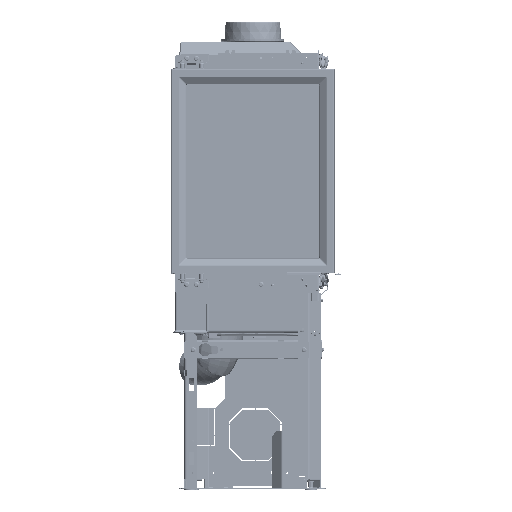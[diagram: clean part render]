
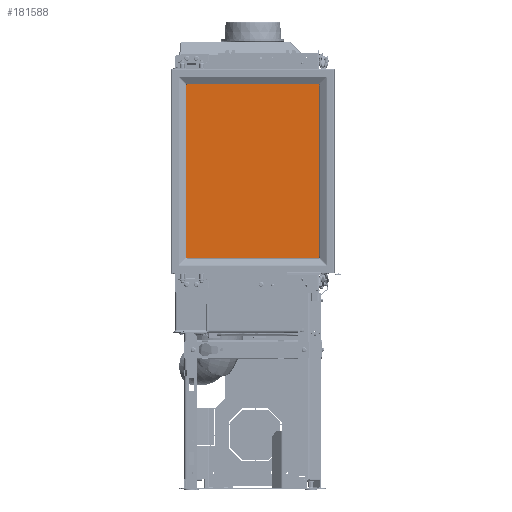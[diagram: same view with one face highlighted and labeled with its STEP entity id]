
A CAD part, front view. The second image highlights one B-rep face of the part: STEP entity #181588.
In plain terms, the highlighted planar face has unit normal (0, -1, 0).
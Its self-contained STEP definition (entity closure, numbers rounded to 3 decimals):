
#13559=CIRCLE('',#200374,2.5);
#13560=CIRCLE('',#200375,2.5);
#13561=CIRCLE('',#200376,2.5);
#13562=CIRCLE('',#200377,2.5);
#13563=CIRCLE('',#200378,2.5);
#38751=ORIENTED_EDGE('',*,*,#82172,.T.);
#38752=ORIENTED_EDGE('',*,*,#82173,.T.);
#38753=ORIENTED_EDGE('',*,*,#82174,.T.);
#38754=ORIENTED_EDGE('',*,*,#82175,.T.);
#38755=ORIENTED_EDGE('',*,*,#82176,.T.);
#38756=ORIENTED_EDGE('',*,*,#82177,.T.);
#38757=ORIENTED_EDGE('',*,*,#82178,.T.);
#38758=ORIENTED_EDGE('',*,*,#82179,.T.);
#38759=ORIENTED_EDGE('',*,*,#82180,.T.);
#82172=EDGE_CURVE('',#105469,#105470,#13559,.F.);
#82173=EDGE_CURVE('',#105470,#105471,#123466,.F.);
#82174=EDGE_CURVE('',#105471,#105472,#13560,.F.);
#82175=EDGE_CURVE('',#105472,#105473,#123467,.F.);
#82176=EDGE_CURVE('',#105473,#105474,#13561,.F.);
#82177=EDGE_CURVE('',#105474,#105475,#123468,.F.);
#82178=EDGE_CURVE('',#105475,#105476,#13562,.F.);
#82179=EDGE_CURVE('',#105476,#105469,#123469,.F.);
#82180=EDGE_CURVE('',#105477,#105477,#13563,.T.);
#105469=VERTEX_POINT('',#294135);
#105470=VERTEX_POINT('',#294136);
#105471=VERTEX_POINT('',#294138);
#105472=VERTEX_POINT('',#294140);
#105473=VERTEX_POINT('',#294142);
#105474=VERTEX_POINT('',#294144);
#105475=VERTEX_POINT('',#294146);
#105476=VERTEX_POINT('',#294148);
#105477=VERTEX_POINT('',#294151);
#123466=LINE('',#294137,#138853);
#123467=LINE('',#294141,#138854);
#123468=LINE('',#294145,#138855);
#123469=LINE('',#294149,#138856);
#138853=VECTOR('',#232139,1000.);
#138854=VECTOR('',#232142,1000.);
#138855=VECTOR('',#232145,1000.);
#138856=VECTOR('',#232148,1000.);
#151411=EDGE_LOOP('',(#38751,#38752,#38753,#38754,#38755,#38756,#38757,
#38758));
#151412=EDGE_LOOP('',(#38759));
#164345=FACE_BOUND('',#151411,.T.);
#164346=FACE_BOUND('',#151412,.T.);
#175388=PLANE('',#200373);
#181588=ADVANCED_FACE('',(#164345,#164346),#175388,.F.);
#200373=AXIS2_PLACEMENT_3D('',#294133,#232135,#232136);
#200374=AXIS2_PLACEMENT_3D('',#294134,#232137,#232138);
#200375=AXIS2_PLACEMENT_3D('',#294139,#232140,#232141);
#200376=AXIS2_PLACEMENT_3D('',#294143,#232143,#232144);
#200377=AXIS2_PLACEMENT_3D('',#294147,#232146,#232147);
#200378=AXIS2_PLACEMENT_3D('',#294150,#232149,#232150);
#232135=DIRECTION('',(0.,1.,0.));
#232136=DIRECTION('',(0.,0.,1.));
#232137=DIRECTION('',(0.,1.,0.));
#232138=DIRECTION('',(0.,0.,1.));
#232139=DIRECTION('',(-1.,0.,0.));
#232140=DIRECTION('',(0.,1.,0.));
#232141=DIRECTION('',(0.,0.,1.));
#232142=DIRECTION('',(0.,0.,-1.));
#232143=DIRECTION('',(0.,1.,0.));
#232144=DIRECTION('',(0.,0.,1.));
#232145=DIRECTION('',(1.,0.,0.));
#232146=DIRECTION('',(0.,1.,0.));
#232147=DIRECTION('',(0.,0.,1.));
#232148=DIRECTION('',(0.,0.,1.));
#232149=DIRECTION('',(0.,1.,0.));
#232150=DIRECTION('',(1.,0.,0.));
#294133=CARTESIAN_POINT('',(0.,0.,0.));
#294134=CARTESIAN_POINT('',(-183.5,0.,4.));
#294135=CARTESIAN_POINT('',(-186.,0.,4.));
#294136=CARTESIAN_POINT('',(-183.5,0.,1.5));
#294137=CARTESIAN_POINT('',(0.,0.,1.5));
#294138=CARTESIAN_POINT('',(183.5,0.,1.5));
#294139=CARTESIAN_POINT('',(183.5,0.,4.));
#294140=CARTESIAN_POINT('',(186.,0.,4.));
#294141=CARTESIAN_POINT('',(186.,0.,0.));
#294142=CARTESIAN_POINT('',(186.,0.,477.));
#294143=CARTESIAN_POINT('',(183.5,0.,477.));
#294144=CARTESIAN_POINT('',(183.5,0.,479.5));
#294145=CARTESIAN_POINT('',(0.,0.,479.5));
#294146=CARTESIAN_POINT('',(-183.5,0.,479.5));
#294147=CARTESIAN_POINT('',(-183.5,0.,477.));
#294148=CARTESIAN_POINT('',(-186.,0.,477.));
#294149=CARTESIAN_POINT('',(-186.,0.,0.));
#294150=CARTESIAN_POINT('',(180.,0.,7.5));
#294151=CARTESIAN_POINT('',(182.5,0.,7.5));
